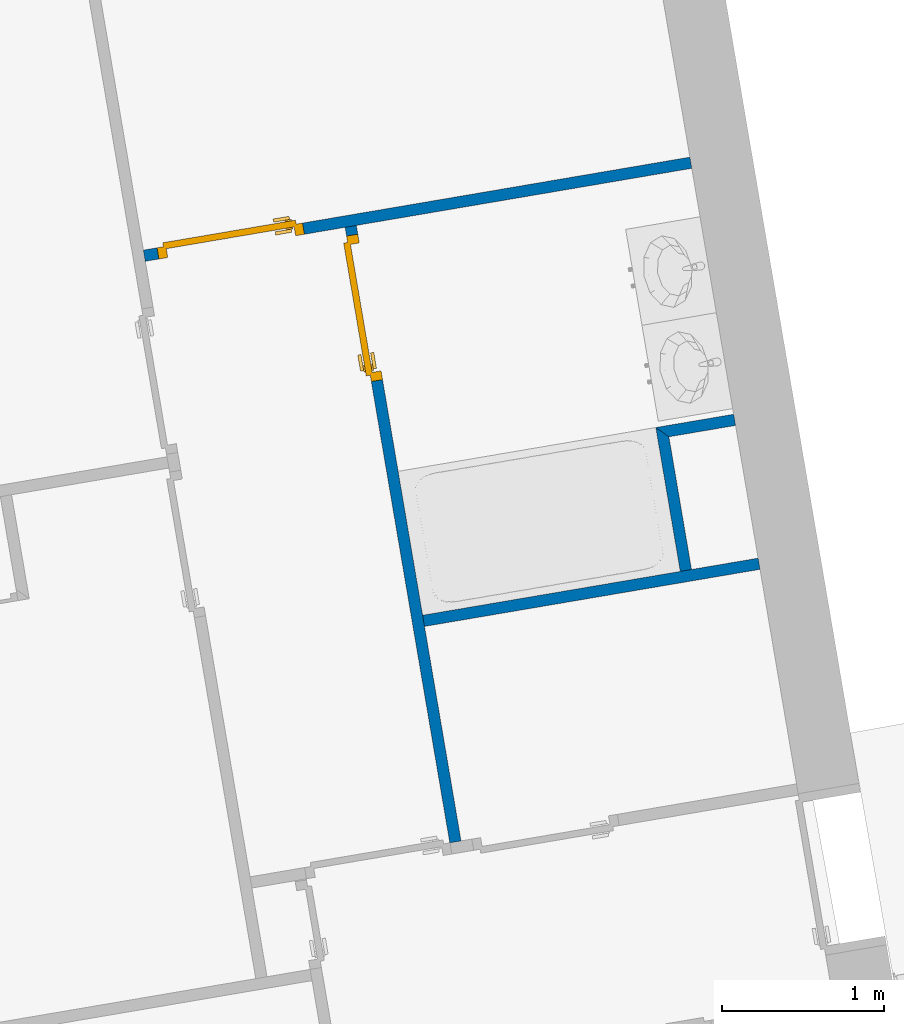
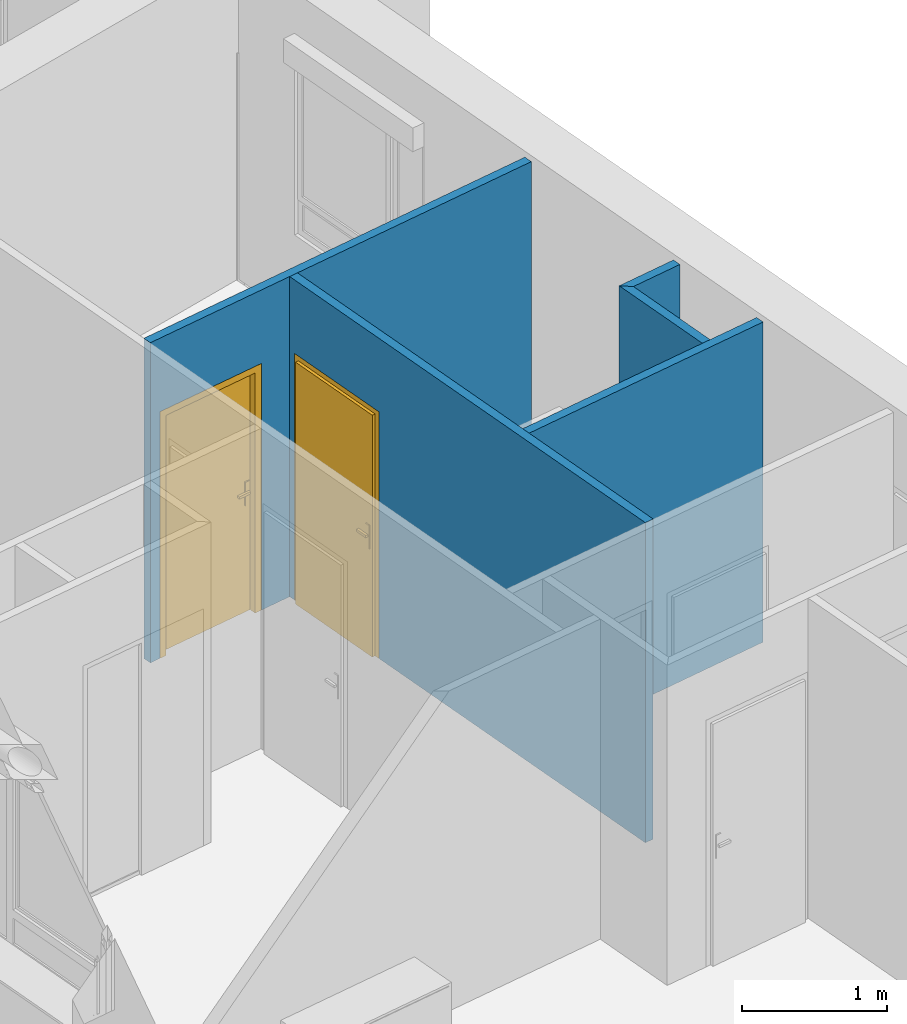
# One storey, part 79 of 121: 5 walls, 2 doors, 2 openings.
"""IFC2X3 building model written with IfcOpenShell, lengths in metres."""

from ifc_helpers import new_model, entity, si_unit, converted_unit, derived_unit, money_unit, direction, frame, origin_with_axes, origin_2d_with_axis, place, context, subcontext, project, spatial, polyline, rectangle, outline, extrude, faceted_brep, source, transform, mapped, material, layer, layer_set, layer_usage, type_object, element, fill, save


model = new_model("IFC2X3")

# Units and contexts
model_context = context("Model", 3, precision=1e-05, world=origin_with_axes(), true_north=direction((0.0, 1.0)))
body_context = subcontext(model_context, "Body", "Model", "MODEL_VIEW")
ifc_project = project(units=[si_unit("LENGTHUNIT", "METRE"), si_unit("AREAUNIT", "SQUARE_METRE"), si_unit("VOLUMEUNIT", "CUBIC_METRE"), converted_unit("PLANEANGLEUNIT", "DEGREE", entity("IfcPlaneAngleMeasure", 0.0174532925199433), si_unit("PLANEANGLEUNIT", "RADIAN"), dimensions=[0, 0, 0, 0, 0, 0, 0]), money_unit("CHF"), converted_unit("TIMEUNIT", "Year", entity("IfcTimeMeasure", 31557600.0), si_unit("TIMEUNIT", "SECOND"), dimensions=[0, 0, 1, 0, 0, 0, 0]), si_unit("MASSUNIT", "GRAM", prefix="KILO"), si_unit("THERMODYNAMICTEMPERATUREUNIT", "DEGREE_CELSIUS"), si_unit("LUMINOUSINTENSITYUNIT", "LUMEN"), si_unit("ENERGYUNIT", "JOULE", prefix="MEGA"), derived_unit("THERMALCONDUCTANCEUNIT", [(si_unit("POWERUNIT", "WATT"), 1), (si_unit("LENGTHUNIT", "METRE"), -1), (si_unit("THERMODYNAMICTEMPERATUREUNIT", "KELVIN"), -1)]), derived_unit("SPECIFICHEATCAPACITYUNIT", [(si_unit("ENERGYUNIT", "JOULE"), 1), (si_unit("MASSUNIT", "GRAM", prefix="KILO"), -1), (si_unit("THERMODYNAMICTEMPERATUREUNIT", "KELVIN"), -1)]), derived_unit("MASSDENSITYUNIT", [(si_unit("MASSUNIT", "GRAM", prefix="KILO"), 1), (si_unit("VOLUMEUNIT", "CUBIC_METRE"), -1)])], contexts=[model_context])

# Site, building, storey
site_placement = place(None, origin_with_axes())
site = spatial("IfcSite", under=ifc_project, at=site_placement, Name="Site", CompositionType="ELEMENT")
building_placement = place(site_placement, origin_with_axes())
building = spatial("IfcBuilding", under=site, at=building_placement, Name="Bâtiment", CompositionType="ELEMENT")
storey_placement = place(building_placement, frame((0.0, 0.0, 2.75), z_axis=(0.0, 0.0, 1.0), x_axis=(1.0, 0.0, 0.0)))
storey = spatial("IfcBuildingStorey", under=building, at=storey_placement, Name="Etage 1", CompositionType="ELEMENT", Elevation=2.75)

# Wall, opening, door
ifc_material = material(Name="Hachure solide 268963992")
ifc_layer = layer(ifc_material, 0.07, ventilated="UNKNOWN")
ifc_layer_set = layer_set([ifc_layer], Name="Cloison 70 0826278243")
ifc_layer_usage_1 = layer_usage(ifc_layer_set, "AXIS2", "NEGATIVE", 0.0)
wall_type = type_object("IfcWallType", Name="Cloison 70 0826278243 70", PredefinedType="NOTDEFINED")
wall_1_placement = place(storey_placement, frame((9585.362598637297, -1024.597851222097, 57.7), z_axis=(0.0, 0.0, 1.0), x_axis=(0.1677527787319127, -0.9858290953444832, 0.0)))
wall_1 = element("IfcWallStandardCase", 1, at=wall_1_placement, inside=storey, type_object=wall_type, material=ifc_layer_usage_1, Name="Mur-149", context=body_context, shape_type="SweptSolid", body=[
    extrude(outline(polyline([(1.118394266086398e-10, -0.07000000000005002), (3.85008979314, -0.07000000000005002), (3.850089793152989, 0.0), (1.492708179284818e-10, 0.0), (1.118394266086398e-10, -0.07000000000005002)])), origin_with_axes(), (0.0, 0.0, 1.0), 2.7),
])
opening_1_placement = place(wall_1_placement, frame((0.5097203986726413, 0.0, 0.0), z_axis=(0.0, 0.0, 1.0), x_axis=(1.0, 0.0, 0.0)))
opening_1 = element("IfcOpeningElement", 2, at=opening_1_placement, cuts=wall_1, Name="Por-299", context=body_context, shape_type="SweptSolid", body=[
    extrude(rectangle(XDim=0.9099999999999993, YDim=2.079999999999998, at=origin_2d_with_axis()), frame((0.0, 0.06999999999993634, 1.039999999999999), z_axis=(0.0, -1.0, 0.0), x_axis=(-1.0, 0.0, 0.0)), (0.0, 0.0, 1.0), 0.14),
])
door_style = type_object("IfcDoorStyle", Name="Porte_1v", ConstructionType="NOTDEFINED", OperationType="NOTDEFINED", ParameterTakesPrecedence=False, Sizeable=False)
shared_shape_1 = source(origin_with_axes(), body_context, "Body", "Brep", [
    faceted_brep([(0.455, 0.0, 0.0), (0.415, 0.0, 0.0), (0.415, 0.0, 2.04), (-0.415, 0.0, 2.04), (-0.415, 0.0, 0.0), (-0.455, 0.0, 0.0), (-0.455, 0.0, 2.08), (0.455, 0.0, 2.08), (0.455, -0.07, 0.0), (0.4, -0.07, 0.0), (0.4, -0.015, 0.0), (0.415, -0.015, 0.0), (0.415, -0.015, 2.04), (-0.415, -0.015, 2.04), (-0.415, -0.015, 0.0), (-0.4, -0.015, 0.0), (-0.4, -0.07, 0.0), (-0.455, -0.07, 0.0), (-0.455, -0.07, 2.08), (0.455, -0.07, 2.08), (-0.4, -0.07, 2.025), (0.4, -0.07, 2.025), (0.4, -0.015, 2.025), (-0.4, -0.015, 2.025)], [[[0, 1, 2, 3, 4, 5, 6, 7]], [[0, 8, 9, 10, 11, 1]], [[1, 11, 12, 2]], [[2, 12, 13, 3]], [[3, 13, 14, 4]], [[5, 4, 14, 15, 16, 17]], [[18, 6, 5, 17]], [[19, 7, 6, 18]], [[8, 0, 7, 19]], [[9, 8, 19, 18, 17, 16, 20, 21]], [[10, 9, 21, 22]], [[11, 10, 22, 23, 15, 14, 13, 12]], [[23, 20, 16, 15]], [[22, 21, 20, 23]]]),
    faceted_brep([(-0.35, -0.015, 0.9), (-0.39, -0.015, 0.9), (-0.39, -0.015, 1.1), (-0.35, -0.015, 1.1), (-0.35, -0.025, 0.9), (-0.39, -0.025, 0.9), (-0.39, -0.025, 1.1), (-0.35, -0.025, 1.1)], [[[0, 1, 2, 3]], [[1, 0, 4, 5]], [[2, 1, 5, 6]], [[3, 2, 6, 7]], [[0, 3, 7, 4]], [[5, 4, 7, 6]]]),
    faceted_brep([(-0.28, -0.025, 1.0), (-0.38, -0.025, 1.0), (-0.38, -0.025, 1.02), (-0.28, -0.025, 1.02), (-0.28, -0.045, 1.0), (-0.38, -0.045, 1.0), (-0.38, -0.045, 1.02), (-0.28, -0.045, 1.02)], [[[0, 1, 2, 3]], [[1, 0, 4, 5]], [[2, 1, 5, 6]], [[3, 2, 6, 7]], [[0, 3, 7, 4]], [[5, 4, 7, 6]]]),
    faceted_brep([(-0.35, 0.035, 0.9), (-0.39, 0.035, 0.9), (-0.39, 0.035, 1.1), (-0.35, 0.035, 1.1), (-0.35, 0.025, 0.9), (-0.39, 0.025, 0.9), (-0.39, 0.025, 1.1), (-0.35, 0.025, 1.1)], [[[0, 1, 2, 3]], [[1, 0, 4, 5]], [[2, 1, 5, 6]], [[3, 2, 6, 7]], [[0, 3, 7, 4]], [[5, 4, 7, 6]]]),
    faceted_brep([(-0.28, 0.05500000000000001, 1.0), (-0.38, 0.05500000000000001, 1.0), (-0.38, 0.05500000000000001, 1.02), (-0.28, 0.05500000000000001, 1.02), (-0.28, 0.035, 1.0), (-0.38, 0.035, 1.0), (-0.38, 0.035, 1.02), (-0.28, 0.035, 1.02)], [[[0, 1, 2, 3]], [[1, 0, 4, 5]], [[2, 1, 5, 6]], [[3, 2, 6, 7]], [[0, 3, 7, 4]], [[5, 4, 7, 6]]]),
    faceted_brep([(-0.415, 0.025, 0.0), (0.415, 0.025, 0.0), (0.415, -0.015, 0.0), (-0.415, -0.015, 0.0), (-0.415, 0.025, 2.04), (0.415, 0.025, 2.04), (0.415, -0.015, 2.04), (-0.415, -0.015, 2.04)], [[[0, 1, 2, 3]], [[0, 4, 5, 1]], [[1, 5, 6, 2]], [[3, 2, 6, 7]], [[4, 0, 3, 7]], [[5, 4, 7, 6]]]),
])
door_1_placement = place(opening_1_placement, frame((0.4150000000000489, 0.0, 0.0), z_axis=(0.0, 0.0, 1.0), x_axis=(-1.0, 0.0, 0.0)))
door_1 = element("IfcDoor", 3, at=door_1_placement, inside=storey, type_object=door_style, Name="Por-299", OverallHeight=2.04, OverallWidth=0.83, context=body_context, shape_type="MappedRepresentation", body=[
    mapped(shared_shape_1, transform((0.414999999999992, 0.06999999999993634, 0.0))),
])
fill(opening_1, door_1)

ifc_layer_usage_2 = layer_usage(ifc_layer_set, "AXIS2", "NEGATIVE", 0.0)
wall_2_placement = place(storey_placement, frame((9587.806241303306, -1024.182030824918, 57.7), z_axis=(0.0, 0.0, 1.0), x_axis=(-0.9858290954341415, -0.1677527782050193, 0.0)))
wall_2 = element("IfcWallStandardCase", 4, at=wall_2_placement, inside=storey, type_object=wall_type, material=ifc_layer_usage_2, Name="Mur-149", context=body_context, shape_type="SweptSolid", body=[
    extrude(outline(polyline([(0.3800000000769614, -0.07000000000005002), (3.798769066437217, -0.06999999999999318), (3.79876906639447, 0.0), (0.3800000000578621, 0.0), (0.3800000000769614, -0.07000000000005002)])), origin_with_axes(), (0.0, 0.0, 1.0), 2.7),
])
opening_2_placement = place(wall_2_placement, frame((3.258124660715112, 0.0, 0.0), z_axis=(0.0, 0.0, 1.0), x_axis=(1.0, 0.0, 0.0)))
opening_2 = element("IfcOpeningElement", 5, at=opening_2_placement, cuts=wall_2, Name="Por-303", context=body_context, shape_type="SweptSolid", body=[
    extrude(rectangle(XDim=0.9099999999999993, YDim=2.079999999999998, at=origin_2d_with_axis()), frame((0.0, 0.06999999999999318, 1.039999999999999), z_axis=(0.0, 1.0, 0.0), x_axis=(1.0, 0.0, 0.0)), (0.0, 0.0, -1.0), 0.14),
])
shared_shape_2 = source(origin_with_axes(), body_context, "Body", "Brep", [
    faceted_brep([(-0.455, 0.0, 0.0), (-0.455, 0.0, 2.08), (0.455, 0.0, 2.08), (0.455, 0.0, 0.0), (0.415, 0.0, 0.0), (0.415, 0.0, 2.04), (-0.415, 0.0, 2.04), (-0.415, 0.0, 0.0), (-0.455, -0.07, 0.0), (-0.455, -0.07, 2.08), (0.455, -0.07, 2.08), (0.455, -0.07, 0.0), (0.4, -0.07, 0.0), (0.4, -0.015, 0.0), (0.415, -0.015, 0.0), (0.415, -0.015, 2.04), (-0.415, -0.015, 2.04), (-0.415, -0.015, 0.0), (-0.4, -0.015, 0.0), (-0.4, -0.07, 0.0), (-0.4, -0.07, 2.025), (0.4, -0.07, 2.025), (0.4, -0.015, 2.025), (-0.4, -0.015, 2.025)], [[[0, 1, 2, 3, 4, 5, 6, 7]], [[8, 9, 1, 0]], [[9, 10, 2, 1]], [[10, 11, 3, 2]], [[3, 11, 12, 13, 14, 4]], [[5, 4, 14, 15]], [[6, 5, 15, 16]], [[7, 6, 16, 17]], [[0, 7, 17, 18, 19, 8]], [[19, 20, 21, 12, 11, 10, 9, 8]], [[22, 13, 12, 21]], [[17, 16, 15, 14, 13, 22, 23, 18]], [[18, 23, 20, 19]], [[23, 22, 21, 20]]]),
    faceted_brep([(0.35, -0.015, 0.9), (0.35, -0.015, 1.1), (0.39, -0.015, 1.1), (0.39, -0.015, 0.9), (0.35, -0.025, 0.9), (0.35, -0.025, 1.1), (0.39, -0.025, 1.1), (0.39, -0.025, 0.9)], [[[0, 1, 2, 3]], [[0, 4, 5, 1]], [[1, 5, 6, 2]], [[2, 6, 7, 3]], [[3, 7, 4, 0]], [[7, 6, 5, 4]]]),
    faceted_brep([(0.28, -0.025, 1.0), (0.28, -0.025, 1.02), (0.38, -0.025, 1.02), (0.38, -0.025, 1.0), (0.28, -0.045, 1.0), (0.28, -0.045, 1.02), (0.38, -0.045, 1.02), (0.38, -0.045, 1.0)], [[[0, 1, 2, 3]], [[0, 4, 5, 1]], [[1, 5, 6, 2]], [[2, 6, 7, 3]], [[3, 7, 4, 0]], [[7, 6, 5, 4]]]),
    faceted_brep([(0.35, 0.035, 0.9), (0.35, 0.035, 1.1), (0.39, 0.035, 1.1), (0.39, 0.035, 0.9), (0.35, 0.025, 0.9), (0.35, 0.025, 1.1), (0.39, 0.025, 1.1), (0.39, 0.025, 0.9)], [[[0, 1, 2, 3]], [[0, 4, 5, 1]], [[1, 5, 6, 2]], [[2, 6, 7, 3]], [[3, 7, 4, 0]], [[7, 6, 5, 4]]]),
    faceted_brep([(0.28, 0.05500000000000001, 1.0), (0.28, 0.05500000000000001, 1.02), (0.38, 0.05500000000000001, 1.02), (0.38, 0.05500000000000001, 1.0), (0.28, 0.035, 1.0), (0.28, 0.035, 1.02), (0.38, 0.035, 1.02), (0.38, 0.035, 1.0)], [[[0, 1, 2, 3]], [[0, 4, 5, 1]], [[1, 5, 6, 2]], [[2, 6, 7, 3]], [[3, 7, 4, 0]], [[7, 6, 5, 4]]]),
    faceted_brep([(0.415, 0.025, 0.0), (0.415, -0.015, 0.0), (-0.415, -0.015, 0.0), (-0.415, 0.025, 0.0), (0.415, 0.025, 2.04), (0.415, -0.015, 2.04), (-0.415, -0.015, 2.04), (-0.415, 0.025, 2.04)], [[[0, 1, 2, 3]], [[4, 5, 1, 0]], [[1, 5, 6, 2]], [[3, 2, 6, 7]], [[0, 3, 7, 4]], [[7, 6, 5, 4]]]),
])
door_2_placement = place(opening_2_placement, frame((0.4149999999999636, 0.0, 0.0), z_axis=(0.0, 0.0, 1.0), x_axis=(-1.0, 0.0, 0.0)))
door_2 = element("IfcDoor", 6, at=door_2_placement, inside=storey, type_object=door_style, Name="Por-303", OverallHeight=2.04, OverallWidth=0.83, context=body_context, shape_type="MappedRepresentation", body=[
    mapped(shared_shape_2, transform((0.4149999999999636, 0.06999999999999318, 0.0))),
])
fill(opening_2, door_2)

# Walls
ifc_layer_usage_3 = layer_usage(ifc_layer_set, "AXIS2", "NEGATIVE", 0.0)
wall_3_placement = place(storey_placement, frame((9587.290329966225, -1025.901304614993, 57.7), z_axis=(0.0, 0.0, 1.0), x_axis=(0.1677527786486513, -0.9858290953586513, 0.0)))
element("IfcWallStandardCase", 7, at=wall_3_placement, inside=storey, type_object=wall_type, material=ifc_layer_usage_3, Name="Mur-149", context=body_context, shape_type="SweptSolid", body=[
    extrude(outline(polyline([(-0.07000000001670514, -0.06999999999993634), (0.8299999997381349, -0.07000000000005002), (0.8299999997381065, 0.0), (0.0, 0.0), (-0.07000000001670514, -0.06999999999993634)])), origin_with_axes(), (0.0, 0.0, 1.0), 2.7),
])
ifc_layer_usage_4 = layer_usage(ifc_layer_set, "AXIS2", "NEGATIVE", 0.0)
wall_4_placement = place(storey_placement, frame((9588.076048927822, -1025.767603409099, 57.7), z_axis=(0.0, 0.0, 1.0), x_axis=(-0.9858290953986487, -0.1677527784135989, 0.0)))
element("IfcWallStandardCase", 8, at=wall_4_placement, inside=storey, type_object=wall_type, material=ifc_layer_usage_4, Name="Mur-149", context=body_context, shape_type="SweptSolid", body=[
    extrude(outline(polyline([(0.3799999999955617, -0.06999999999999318), (0.8670133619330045, -0.06999999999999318), (0.7970133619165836, 0.0), (0.3799999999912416, 0.0), (0.3799999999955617, -0.06999999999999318)])), origin_with_axes(), (0.0, 0.0, 1.0), 2.7),
])
ifc_layer_usage_5 = layer_usage(ifc_layer_set, "AXIS2", "NEGATIVE", 0.0)
wall_5_placement = place(storey_placement, frame((9588.227026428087, -1026.654849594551, 57.7), z_axis=(0.0, 0.0, 1.0), x_axis=(-0.9858290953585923, -0.1677527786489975, 0.0)))
element("IfcWallStandardCase", 9, at=wall_5_placement, inside=storey, type_object=wall_type, material=ifc_layer_usage_5, Name="Mur-149", context=body_context, shape_type="SweptSolid", body=[
    extrude(outline(polyline([(0.3799999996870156, -0.06999999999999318), (2.478769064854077, -0.0700000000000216), (2.478769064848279, 0.0), (0.3799999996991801, 0.0), (0.3799999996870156, -0.06999999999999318)])), origin_with_axes(), (0.0, 0.0, 1.0), 2.7),
])

save(model, "model.ifc")
